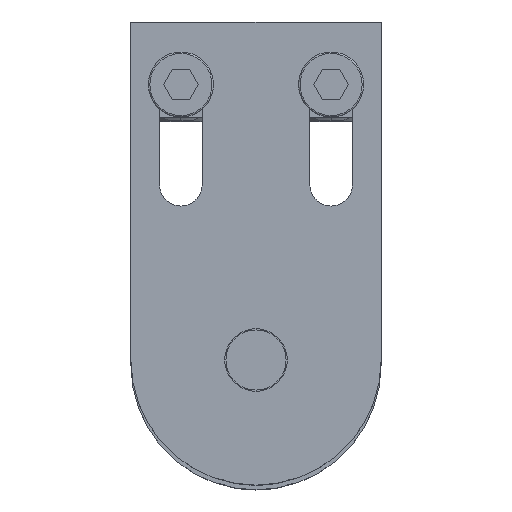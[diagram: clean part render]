
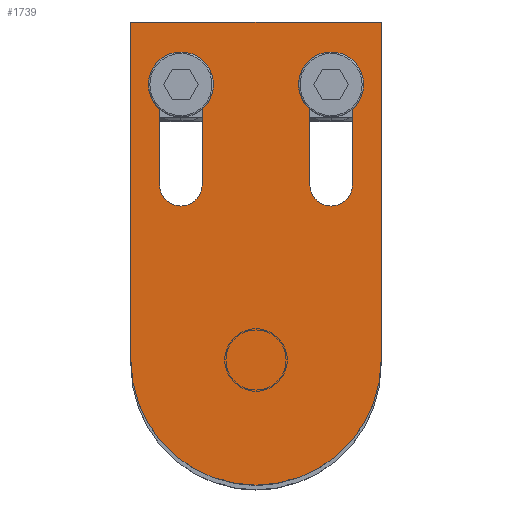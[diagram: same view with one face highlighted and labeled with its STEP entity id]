
A CAD part, top view. The second image highlights one B-rep face of the part: STEP entity #1739.
In plain terms, the highlighted planar face has unit normal (0, 0, 1) as drawn and (0, 0, -1) by its records, which use the part's own axes.
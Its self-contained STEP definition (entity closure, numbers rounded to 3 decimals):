
#13 = CARTESIAN_POINT ( 'NONE',  ( 19.25, 35., -6. ) ) ;
#86 = LINE ( 'NONE', #13, #2607 ) ;
#131 = VERTEX_POINT ( 'NONE', #2704 ) ;
#171 = AXIS2_PLACEMENT_3D ( 'NONE', #1843, #875, #192 ) ;
#183 = EDGE_LOOP ( 'NONE', ( #1219, #576, #2140, #1811 ) ) ;
#192 = DIRECTION ( 'NONE',  ( 1., 0., 0. ) ) ;
#209 = PLANE ( 'NONE',  #171 ) ;
#264 = DIRECTION ( 'NONE',  ( -1., 0., 0. ) ) ;
#272 = AXIS2_PLACEMENT_3D ( 'NONE', #3673, #2057, #1355 ) ;
#319 = DIRECTION ( 'NONE',  ( 1., 0., 0. ) ) ;
#349 = CIRCLE ( 'NONE', #2983, 4.25 ) ;
#429 = VERTEX_POINT ( 'NONE', #3523 ) ;
#523 = CIRCLE ( 'NONE', #2384, 25. ) ;
#570 = VECTOR ( 'NONE', #846, 1000. ) ;
#576 = ORIENTED_EDGE ( 'NONE', *, *, #2261, .F. ) ;
#665 = CIRCLE ( 'NONE', #3915, 4.25 ) ;
#671 = ORIENTED_EDGE ( 'NONE', *, *, #2917, .T. ) ;
#720 = CARTESIAN_POINT ( 'NONE',  ( -10.75, 35., -6. ) ) ;
#732 = VECTOR ( 'NONE', #2650, 1000. ) ;
#769 = EDGE_CURVE ( 'NONE', #3276, #1015, #2945, .T. ) ;
#772 = CARTESIAN_POINT ( 'NONE',  ( -19.25, 35., -6. ) ) ;
#790 = AXIS2_PLACEMENT_3D ( 'NONE', #1635, #1670, #319 ) ;
#801 = DIRECTION ( 'NONE',  ( 0., -1., 0. ) ) ;
#846 = DIRECTION ( 'NONE',  ( 0., -1., 0. ) ) ;
#875 = DIRECTION ( 'NONE',  ( 0., 0., 1. ) ) ;
#901 = VERTEX_POINT ( 'NONE', #3045 ) ;
#1015 = VERTEX_POINT ( 'NONE', #2734 ) ;
#1019 = CARTESIAN_POINT ( 'NONE',  ( 0., 0., -6. ) ) ;
#1146 = DIRECTION ( 'NONE',  ( 1., 0., 0. ) ) ;
#1158 = EDGE_CURVE ( 'NONE', #1160, #131, #1300, .T. ) ;
#1160 = VERTEX_POINT ( 'NONE', #2840 ) ;
#1165 = VERTEX_POINT ( 'NONE', #4119 ) ;
#1189 = CARTESIAN_POINT ( 'NONE',  ( -10.75, 55., -6. ) ) ;
#1201 = LINE ( 'NONE', #3794, #2170 ) ;
#1219 = ORIENTED_EDGE ( 'NONE', *, *, #2327, .F. ) ;
#1248 = FACE_BOUND ( 'NONE', #4133, .T. ) ;
#1300 = LINE ( 'NONE', #2159, #3042 ) ;
#1342 = DIRECTION ( 'NONE',  ( 0., 1., 0. ) ) ;
#1355 = DIRECTION ( 'NONE',  ( -1., 0., 0. ) ) ;
#1369 = DIRECTION ( 'NONE',  ( 1., 0., 0. ) ) ;
#1418 = VERTEX_POINT ( 'NONE', #1992 ) ;
#1554 = FACE_BOUND ( 'NONE', #2688, .T. ) ;
#1624 = CARTESIAN_POINT ( 'NONE',  ( 25., 0., -6. ) ) ;
#1635 = CARTESIAN_POINT ( 'NONE',  ( -15., 35., -6. ) ) ;
#1670 = DIRECTION ( 'NONE',  ( 0., 0., 1. ) ) ;
#1701 = ORIENTED_EDGE ( 'NONE', *, *, #2594, .T. ) ;
#1739 = ADVANCED_FACE ( 'NONE', ( #1248, #1554, #4118 ), #209, .F. ) ;
#1806 = LINE ( 'NONE', #1819, #2521 ) ;
#1811 = ORIENTED_EDGE ( 'NONE', *, *, #2427, .F. ) ;
#1819 = CARTESIAN_POINT ( 'NONE',  ( 10.75, 35., -6. ) ) ;
#1824 = EDGE_CURVE ( 'NONE', #901, #429, #349, .T. ) ;
#1843 = CARTESIAN_POINT ( 'NONE',  ( 0., 0., -6. ) ) ;
#1945 = EDGE_CURVE ( 'NONE', #2509, #2126, #2570, .T. ) ;
#1981 = ORIENTED_EDGE ( 'NONE', *, *, #3524, .T. ) ;
#1992 = CARTESIAN_POINT ( 'NONE',  ( -25., 0., -6. ) ) ;
#2057 = DIRECTION ( 'NONE',  ( 0., 0., 1. ) ) ;
#2103 = VECTOR ( 'NONE', #2893, 1000. ) ;
#2126 = VERTEX_POINT ( 'NONE', #720 ) ;
#2140 = ORIENTED_EDGE ( 'NONE', *, *, #1158, .F. ) ;
#2159 = CARTESIAN_POINT ( 'NONE',  ( 25., 67.5, -6. ) ) ;
#2170 = VECTOR ( 'NONE', #801, 1000. ) ;
#2238 = DIRECTION ( 'NONE',  ( 0., 0., 1. ) ) ;
#2242 = CARTESIAN_POINT ( 'NONE',  ( -10.75, 35., -6. ) ) ;
#2251 = CARTESIAN_POINT ( 'NONE',  ( 15., 55., -6. ) ) ;
#2261 = EDGE_CURVE ( 'NONE', #131, #1418, #1201, .T. ) ;
#2327 = EDGE_CURVE ( 'NONE', #1418, #3218, #523, .T. ) ;
#2384 = AXIS2_PLACEMENT_3D ( 'NONE', #1019, #3971, #1369 ) ;
#2427 = EDGE_CURVE ( 'NONE', #3218, #1160, #3036, .T. ) ;
#2481 = CARTESIAN_POINT ( 'NONE',  ( -15., 55., -6. ) ) ;
#2509 = VERTEX_POINT ( 'NONE', #772 ) ;
#2521 = VECTOR ( 'NONE', #3816, 1000. ) ;
#2570 = CIRCLE ( 'NONE', #790, 4.25 ) ;
#2584 = ORIENTED_EDGE ( 'NONE', *, *, #1945, .T. ) ;
#2594 = EDGE_CURVE ( 'NONE', #1165, #2509, #4254, .T. ) ;
#2607 = VECTOR ( 'NONE', #1342, 1000. ) ;
#2650 = DIRECTION ( 'NONE',  ( 0., 1., 0. ) ) ;
#2688 = EDGE_LOOP ( 'NONE', ( #1701, #2584, #4037, #671 ) ) ;
#2704 = CARTESIAN_POINT ( 'NONE',  ( -25., 67.5, -6. ) ) ;
#2707 = ORIENTED_EDGE ( 'NONE', *, *, #2871, .T. ) ;
#2734 = CARTESIAN_POINT ( 'NONE',  ( 19.25, 35., -6. ) ) ;
#2840 = CARTESIAN_POINT ( 'NONE',  ( 25., 67.5, -6. ) ) ;
#2871 = EDGE_CURVE ( 'NONE', #429, #3276, #1806, .T. ) ;
#2893 = DIRECTION ( 'NONE',  ( 0., 1., 0. ) ) ;
#2917 = EDGE_CURVE ( 'NONE', #3947, #1165, #665, .T. ) ;
#2945 = CIRCLE ( 'NONE', #272, 4.25 ) ;
#2956 = CARTESIAN_POINT ( 'NONE',  ( 25., 0., -6. ) ) ;
#2983 = AXIS2_PLACEMENT_3D ( 'NONE', #2251, #2238, #264 ) ;
#2999 = ORIENTED_EDGE ( 'NONE', *, *, #1824, .T. ) ;
#3036 = LINE ( 'NONE', #2956, #732 ) ;
#3042 = VECTOR ( 'NONE', #3155, 1000. ) ;
#3045 = CARTESIAN_POINT ( 'NONE',  ( 19.25, 55., -6. ) ) ;
#3130 = DIRECTION ( 'NONE',  ( 0., 0., 1. ) ) ;
#3155 = DIRECTION ( 'NONE',  ( -1., 0., 0. ) ) ;
#3218 = VERTEX_POINT ( 'NONE', #1624 ) ;
#3276 = VERTEX_POINT ( 'NONE', #4244 ) ;
#3484 = CARTESIAN_POINT ( 'NONE',  ( -19.25, 35., -6. ) ) ;
#3523 = CARTESIAN_POINT ( 'NONE',  ( 10.75, 55., -6. ) ) ;
#3524 = EDGE_CURVE ( 'NONE', #1015, #901, #86, .T. ) ;
#3529 = LINE ( 'NONE', #2242, #2103 ) ;
#3673 = CARTESIAN_POINT ( 'NONE',  ( 15., 35., -6. ) ) ;
#3794 = CARTESIAN_POINT ( 'NONE',  ( -25., 0., -6. ) ) ;
#3816 = DIRECTION ( 'NONE',  ( 0., -1., 0. ) ) ;
#3915 = AXIS2_PLACEMENT_3D ( 'NONE', #2481, #3130, #1146 ) ;
#3947 = VERTEX_POINT ( 'NONE', #1189 ) ;
#3971 = DIRECTION ( 'NONE',  ( 0., 0., 1. ) ) ;
#4037 = ORIENTED_EDGE ( 'NONE', *, *, #4192, .T. ) ;
#4118 = FACE_OUTER_BOUND ( 'NONE', #183, .T. ) ;
#4119 = CARTESIAN_POINT ( 'NONE',  ( -19.25, 55., -6. ) ) ;
#4132 = ORIENTED_EDGE ( 'NONE', *, *, #769, .T. ) ;
#4133 = EDGE_LOOP ( 'NONE', ( #2707, #4132, #1981, #2999 ) ) ;
#4192 = EDGE_CURVE ( 'NONE', #2126, #3947, #3529, .T. ) ;
#4244 = CARTESIAN_POINT ( 'NONE',  ( 10.75, 35., -6. ) ) ;
#4254 = LINE ( 'NONE', #3484, #570 ) ;
